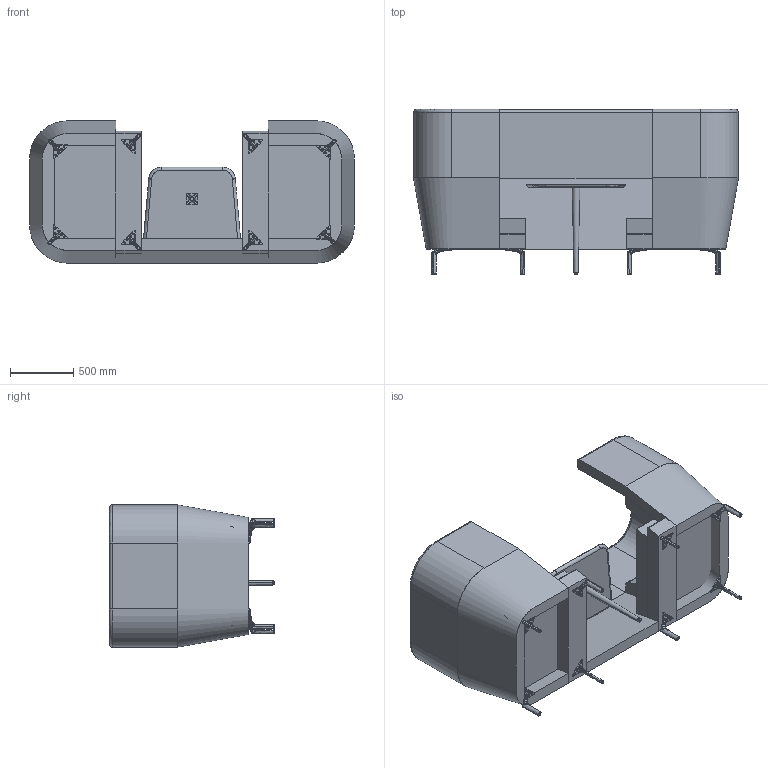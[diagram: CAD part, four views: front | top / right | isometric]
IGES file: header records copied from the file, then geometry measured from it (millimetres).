
Start section: SolidWorks IGES file using analytic representation for surfaces
Global section: file name: P:\3D CAD BLOCKS\ENTENTE\ENT - TWIN - BOOTH\ENT - TWIN - BOOTH -.IGS; native system: SolidWorks 2012; preprocessor: SolidWorks 2012; author: adam; date: 140220.180003; units: millimetre
Bounding box: 2560 x 1301.5 x 1120 mm (x, y, z)
Surface area: 21779158.6 mm2 (no closed solid volume)
Topology: 0 solids, 0 shells, 1222 faces, 16198 edges, 16190 vertices
Faces by surface type: bspline 682, revolution 540
